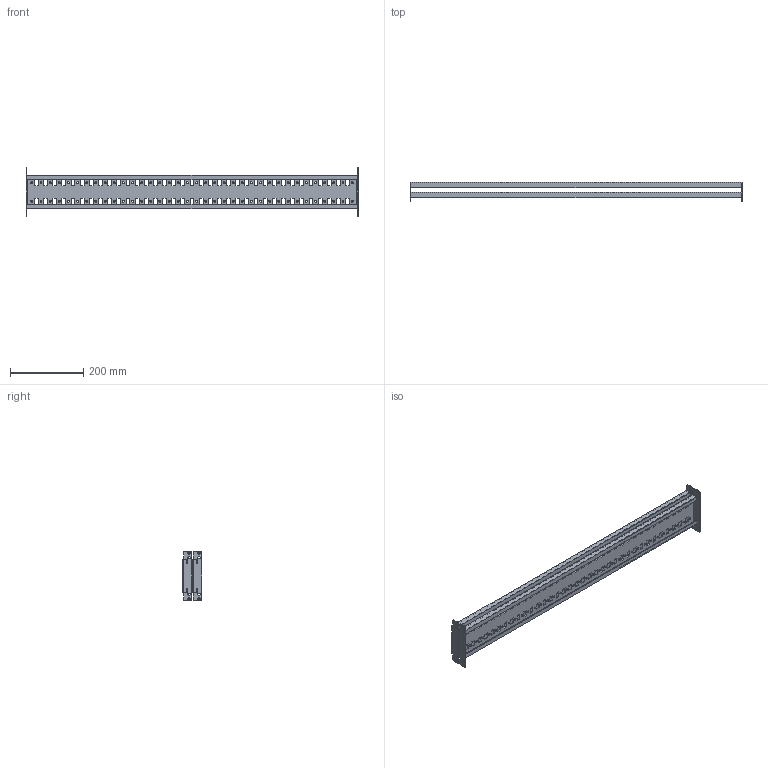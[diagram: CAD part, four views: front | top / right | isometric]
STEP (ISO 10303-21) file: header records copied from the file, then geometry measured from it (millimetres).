
FILE_DESCRIPTION (( 'STEP AP214' ), '1' );
FILE_NAME ('FO-00-RBB-100 Ðåéêà îñíîâàíèÿ òèï Â.STEP', '2025-08-14T08:00:09', ( '' ), ( '' ), 'SwSTEP 2.0', 'SolidWorks 2023', '' );
FILE_SCHEMA (( 'AUTOMOTIVE_DESIGN' ));
Length unit declared in the file: millimetre
Products named in the file (2): FO-00-RBB-100 Рейка основания тип В; Рейка основания тип B 1000мм
Assembly tree (2 placements, depth 2):
  FO-00-RBB-100 Рейка основания тип В
    Рейка основания тип B 1000мм  x2
Bounding box: 907 x 52.11 x 136 mm (x, y, z)
Volume: 465104.3 mm3; surface area: 486235 mm2
Topology: 2 solids, 2 shells, 964 faces, 2872 edges, 1912 vertices
Faces by surface type: plane 644, cylinder 320
Entity records: 16811 total; most frequent: CARTESIAN_POINT 2879, ORIENTED_EDGE 2872, DIRECTION 2730, EDGE_CURVE 1436, VECTOR 1116, LINE 1116, VERTEX_POINT 956, AXIS2_PLACEMENT_3D 807
